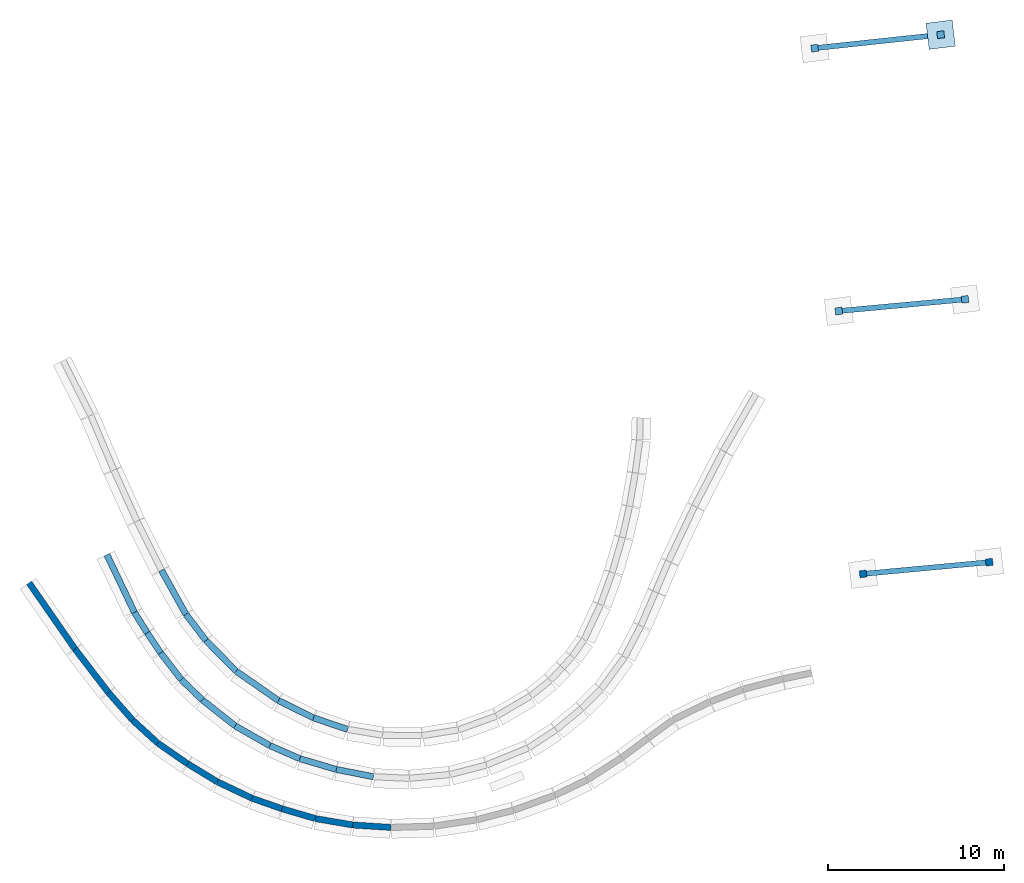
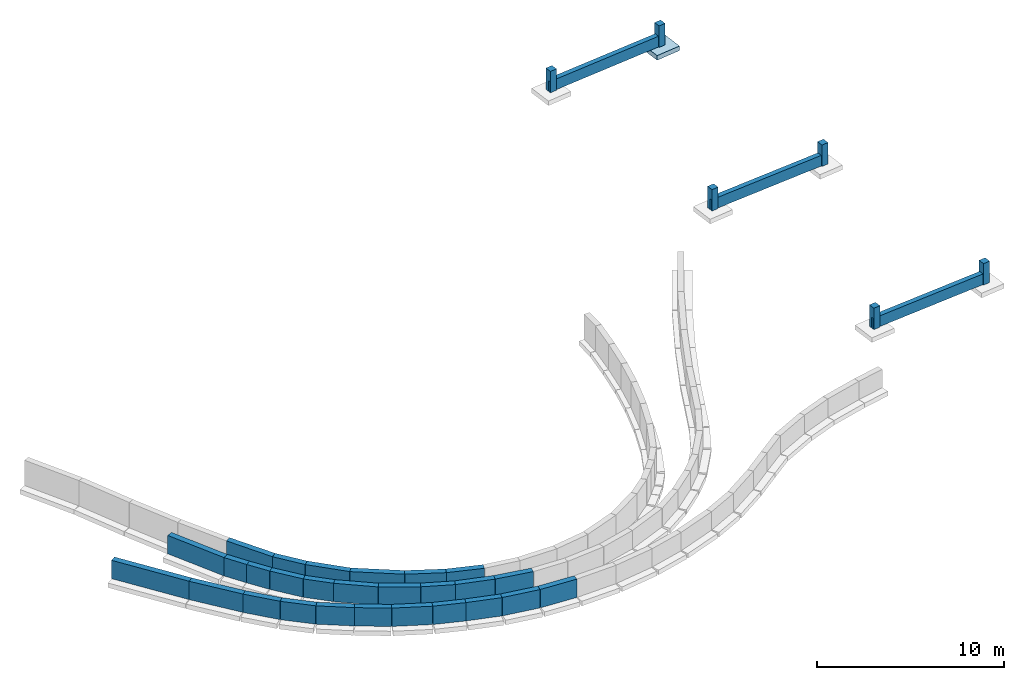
# One storey, part 4 of 6: 27 walls, 6 columns, 3 beams, 1 footing.
"""IFC2X3 building model written with IfcOpenShell, lengths in millimetres."""

from ifc_helpers import new_model, entity, si_unit, converted_unit, direction, frame, origin, origin_with_axes, place, context, project, spatial, faceted_brep, element, save


model = new_model("IFC2X3")

# Units and contexts
model_context = context("Model", 3, precision=1e-05, world=origin(), true_north=direction((0.0, 1.0, 0.0)))
ifc_project = project(units=[si_unit("LENGTHUNIT", "METRE", prefix="MILLI"), si_unit("AREAUNIT", "SQUARE_METRE"), si_unit("VOLUMEUNIT", "CUBIC_METRE"), converted_unit("PLANEANGLEUNIT", "DEGREE", entity("IfcPlaneAngleMeasure", 0.01745), si_unit("PLANEANGLEUNIT", "RADIAN"), dimensions=[0, 0, 0, 0, 0, 0, 0]), si_unit("SOLIDANGLEUNIT", "STERADIAN"), si_unit("MASSUNIT", "GRAM"), si_unit("TIMEUNIT", "SECOND"), si_unit("THERMODYNAMICTEMPERATUREUNIT", "DEGREE_CELSIUS"), si_unit("LUMINOUSINTENSITYUNIT", "LUMEN")], contexts=[model_context])

# Site, building, storey
site_placement = place(None, origin_with_axes())
site = spatial("IfcSite", under=ifc_project, at=site_placement, Name="Default Site", CompositionType="ELEMENT")
building_placement = place(site_placement, origin_with_axes())
building = spatial("IfcBuilding", under=site, at=building_placement, Name="Default Building", CompositionType="ELEMENT")
storey_placement = place(building_placement, origin_with_axes())
storey = spatial("IfcBuildingStorey", under=building, at=storey_placement, Name="Fundação", CompositionType="ELEMENT", Elevation=0.0)

# Footing
footing_placement = place(storey_placement, frame((8697.059722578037, -565.5739542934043, -3398.624071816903), z_axis=(0.0, 0.0, 1.0), x_axis=(1.0, 0.0, 0.0)))
element("IfcFooting", 1, at=footing_placement, inside=storey, Name="IfcFooting - P4 (150 x 150 x 30)", context=model_context, shape_type="Brep", body=[
    faceted_brep([(25877.74226346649, 29255.32230500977, 5.960464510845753e-06), (27183.7575165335, 30926.94553499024, 5.960464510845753e-06), (25694.93827500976, 30744.14154653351, 5.960464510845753e-06), (27366.56150499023, 29438.12629346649, 5.960464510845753e-06), (25694.93827500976, 30744.14154653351, -300.0000059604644), (27366.56150499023, 29438.12629346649, -300.0000059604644), (25877.74226346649, 29255.32230500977, -300.0000059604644), (27183.7575165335, 30926.94553499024, -300.0000059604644)], [[[0, 1, 2]], [[0, 3, 1]], [[4, 5, 6]], [[4, 7, 5]], [[3, 6, 5]], [[3, 0, 6]], [[1, 5, 7]], [[1, 3, 5]], [[2, 7, 4]], [[2, 1, 7]], [[0, 4, 6]], [[0, 2, 4]]]),
])

# Columns
column_1_placement = place(storey_placement, frame((8697.059722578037, -565.5739542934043, -2555.154677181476), z_axis=(0.0, 0.0, 1.0), x_axis=(1.0, 0.0, 0.0)))
element("IfcColumn", 2, at=column_1_placement, inside=storey, Name="IfcColumn - P6 (40x40)", context=model_context, shape_type="Brep", body=[
    faceted_brep([(27743.7927716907, 14832.10322284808, 1399.9999721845), (28092.06348597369, 15277.86943340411, 1399.9999721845), (27695.04502355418, 15229.12168526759, 1399.9999721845), (28140.81123411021, 14880.8509709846, 1399.9999721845), (27695.04502355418, 15229.12168526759, -2.781549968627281e-05), (28140.81123411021, 14880.8509709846, -2.781549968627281e-05), (27743.7927716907, 14832.10322284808, -2.781549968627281e-05), (28092.06348597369, 15277.86943340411, -2.781549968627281e-05)], [[[0, 1, 2]], [[0, 3, 1]], [[4, 5, 6]], [[4, 7, 5]], [[3, 6, 5]], [[3, 0, 6]], [[1, 5, 7]], [[1, 3, 5]], [[2, 7, 4]], [[2, 1, 7]], [[0, 4, 6]], [[0, 2, 4]]]),
])
column_2_placement = place(storey_placement, frame((8697.059722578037, -565.5739542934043, -2555.154677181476), z_axis=(0.0, 0.0, 1.0), x_axis=(1.0, 0.0, 0.0)))
element("IfcColumn", 3, at=column_2_placement, inside=storey, Name="IfcColumn - P5 (40x40)", context=model_context, shape_type="Brep", body=[
    faceted_brep([(20570.14347169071, 14169.62916284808, 1399.9999721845), (20918.4141859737, 14615.39537340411, 1399.9999721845), (20521.39572355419, 14566.64762526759, 1399.9999721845), (20967.16193411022, 14218.3769109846, 1399.9999721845), (20521.39572355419, 14566.64762526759, -2.781549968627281e-05), (20967.16193411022, 14218.3769109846, -2.781549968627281e-05), (20570.14347169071, 14169.62916284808, -2.781549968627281e-05), (20918.4141859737, 14615.39537340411, -2.781549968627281e-05)], [[[0, 1, 2]], [[0, 3, 1]], [[4, 5, 6]], [[4, 7, 5]], [[3, 6, 5]], [[3, 0, 6]], [[1, 5, 7]], [[1, 3, 5]], [[2, 7, 4]], [[2, 1, 7]], [[0, 4, 6]], [[0, 2, 4]]]),
])
column_3_placement = place(storey_placement, frame((8697.059722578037, -565.5739542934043, -1732.458657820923), z_axis=(0.0, 0.0, 1.0), x_axis=(1.0, 0.0, 0.0)))
element("IfcColumn", 4, at=column_3_placement, inside=storey, Name="IfcColumn - P8 (40x40)", context=model_context, shape_type="Brep", body=[
    faceted_brep([(29119.18278169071, -102.0812554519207, 1399.9999721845), (29467.45349597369, 343.6849551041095, 1399.9999721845), (29070.43503355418, 294.9372069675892, 1399.9999721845), (29516.20124411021, -53.33350731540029, 1399.9999721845), (29070.43503355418, 294.9372069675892, -2.781549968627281e-05), (29516.20124411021, -53.33350731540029, -2.781549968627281e-05), (29119.18278169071, -102.0812554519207, -2.781549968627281e-05), (29467.45349597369, 343.6849551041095, -2.781549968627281e-05)], [[[0, 1, 2]], [[0, 3, 1]], [[4, 5, 6]], [[4, 7, 5]], [[3, 6, 5]], [[3, 0, 6]], [[1, 5, 7]], [[1, 3, 5]], [[2, 7, 4]], [[2, 1, 7]], [[0, 4, 6]], [[0, 2, 4]]]),
])
column_4_placement = place(storey_placement, frame((8697.059722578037, -565.5739542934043, -3398.624067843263), z_axis=(0.0, 0.0, 1.0), x_axis=(1.0, 0.0, 0.0)))
element("IfcColumn", 5, at=column_4_placement, inside=storey, Name="IfcColumn - P3 (40x40)", context=model_context, shape_type="Brep", body=[
    faceted_brep([(19194.11714169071, 29102.87164284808, 1399.9999721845), (19542.38785597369, 29548.63785340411, 1399.9999721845), (19145.36939355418, 29499.89010526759, 1399.9999721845), (19591.13560411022, 29151.6193909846, 1399.9999721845), (19145.36939355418, 29499.89010526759, -2.781549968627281e-05), (19591.13560411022, 29151.6193909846, -2.781549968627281e-05), (19194.11714169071, 29102.87164284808, -2.781549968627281e-05), (19542.38785597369, 29548.63785340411, -2.781549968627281e-05)], [[[0, 1, 2]], [[0, 3, 1]], [[4, 5, 6]], [[4, 7, 5]], [[3, 6, 5]], [[3, 0, 6]], [[1, 5, 7]], [[1, 3, 5]], [[2, 7, 4]], [[2, 1, 7]], [[0, 4, 6]], [[0, 2, 4]]]),
])
column_5_placement = place(storey_placement, frame((8697.059722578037, -565.5739542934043, -3398.624067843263), z_axis=(0.0, 0.0, 1.0), x_axis=(1.0, 0.0, 0.0)))
element("IfcColumn", 6, at=column_5_placement, inside=storey, Name="IfcColumn - P4 (40x40)", context=model_context, shape_type="Brep", body=[
    faceted_brep([(26356.61453169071, 29868.25081284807, 1399.9999721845), (26704.8852459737, 30314.01702340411, 1399.9999721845), (26307.86678355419, 30265.26927526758, 1399.9999721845), (26753.63299411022, 29916.99856098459, 1399.9999721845), (26307.86678355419, 30265.26927526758, -2.781549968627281e-05), (26753.63299411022, 29916.99856098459, -2.781549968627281e-05), (26356.61453169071, 29868.25081284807, -2.781549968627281e-05), (26704.8852459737, 30314.01702340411, -2.781549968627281e-05)], [[[0, 1, 2]], [[0, 3, 1]], [[4, 5, 6]], [[4, 7, 5]], [[3, 6, 5]], [[3, 0, 6]], [[1, 5, 7]], [[1, 3, 5]], [[2, 7, 4]], [[2, 1, 7]], [[0, 4, 6]], [[0, 2, 4]]]),
])
column_6_placement = place(storey_placement, frame((8697.059722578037, -565.5739542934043, -1732.458657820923), z_axis=(0.0, 0.0, 1.0), x_axis=(1.0, 0.0, 0.0)))
element("IfcColumn", 7, at=column_6_placement, inside=storey, Name="IfcColumn - P7 (40x40)", context=model_context, shape_type="Brep", body=[
    faceted_brep([(21949.8888216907, -767.9758581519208, 1399.9999721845), (22298.15953597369, -322.2096475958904, 1399.9999721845), (21901.14107355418, -370.9573957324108, 1399.9999721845), (22346.90728411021, -719.2281100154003, 1399.9999721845), (21901.14107355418, -370.9573957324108, -2.781549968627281e-05), (22346.90728411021, -719.2281100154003, -2.781549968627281e-05), (21949.8888216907, -767.9758581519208, -2.781549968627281e-05), (22298.15953597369, -322.2096475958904, -2.781549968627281e-05)], [[[0, 1, 2]], [[0, 3, 1]], [[4, 5, 6]], [[4, 7, 5]], [[3, 6, 5]], [[3, 0, 6]], [[1, 5, 7]], [[1, 3, 5]], [[2, 7, 4]], [[2, 1, 7]], [[0, 4, 6]], [[0, 2, 4]]]),
])

# Beams
beam_1_placement = place(storey_placement, frame((8697.059722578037, -565.5739542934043, -3055.154681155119), z_axis=(0.0, 0.0, 1.0), x_axis=(1.0, 0.0, 0.0)))
element("IfcBeam", 8, at=beam_1_placement, inside=storey, Name="IfcBeam - Viga 123 (30x70)", context=model_context, shape_type="Brep", body=[
    faceted_brep([(28130.96443595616, 14924.02160910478, 500.0000059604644), (28103.37726058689, 15222.75050727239, 1199.999994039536), (28130.96443595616, 14924.02160910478, 1199.999994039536), (28103.37726058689, 15222.75050727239, 500.0000059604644), (20558.82970275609, 14224.74809733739, 1199.999994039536), (20531.24252738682, 14523.476995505, 500.0000059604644), (20558.82970275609, 14224.74809733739, 500.0000059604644), (20531.24252738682, 14523.476995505, 1199.999994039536)], [[[0, 1, 2]], [[0, 3, 1]], [[4, 5, 6]], [[4, 7, 5]], [[3, 6, 5]], [[3, 0, 6]], [[1, 5, 7]], [[1, 3, 5]], [[2, 7, 4]], [[2, 1, 7]], [[0, 4, 6]], [[0, 2, 4]]]),
])
beam_2_placement = place(storey_placement, frame((8697.059722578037, -565.5739542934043, -2232.458661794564), z_axis=(0.0, 0.0, 1.0), x_axis=(1.0, 0.0, 0.0)))
element("IfcBeam", 9, at=beam_2_placement, inside=storey, Name="IfcBeam - Viga 122 (30x70)", context=model_context, shape_type="Brep", body=[
    faceted_brep([(29506.42043836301, -10.05052409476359, 500.0000059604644), (29478.67542989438, 288.6637411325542, 1199.999994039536), (29506.42043836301, -10.05052409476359, 1199.999994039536), (29478.67542989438, 288.6637411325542, 500.0000059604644), (21938.6668849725, -712.9546441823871, 1199.999994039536), (21910.92187650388, -414.2403789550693, 500.0000059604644), (21938.6668849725, -712.9546441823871, 500.0000059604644), (21910.92187650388, -414.2403789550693, 1199.999994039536)], [[[0, 1, 2]], [[0, 3, 1]], [[4, 5, 6]], [[4, 7, 5]], [[3, 6, 5]], [[3, 0, 6]], [[1, 5, 7]], [[1, 3, 5]], [[2, 7, 4]], [[2, 1, 7]], [[0, 4, 6]], [[0, 2, 4]]]),
])
beam_3_placement = place(storey_placement, frame((8697.059722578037, -565.5739542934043, -3898.624071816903), z_axis=(0.0, 0.0, 1.0), x_axis=(1.0, 0.0, 0.0)))
element("IfcBeam", 10, at=beam_3_placement, inside=storey, Name="IfcBeam - Viga 124 (30x70)", context=model_context, shape_type="Brep", body=[
    faceted_brep([(26745.58034793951, 29963.2365464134, 500.0000059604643), (26713.70402233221, 30261.53824319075, 1199.999994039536), (26745.58034793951, 29963.2365464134, 1199.999994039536), (26713.70402233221, 30261.53824319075, 500.0000059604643), (19185.29835598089, 29155.35042275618, 1199.999994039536), (19153.42203037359, 29453.65211953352, 500.0000059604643), (19185.29835598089, 29155.35042275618, 500.0000059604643), (19153.42203037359, 29453.65211953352, 1199.999994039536)], [[[0, 1, 2]], [[0, 3, 1]], [[4, 5, 6]], [[4, 7, 5]], [[3, 6, 5]], [[3, 0, 6]], [[1, 5, 7]], [[1, 3, 5]], [[2, 7, 4]], [[2, 1, 7]], [[0, 4, 6]], [[0, 2, 4]]]),
])

# Walls
wall_1_placement = place(storey_placement, origin_with_axes())
element("IfcWallStandardCase", 11, at=wall_1_placement, inside=storey, Name="IfcWallStandardCase - IfcWallStandardCase - C63 (35)", context=model_context, shape_type="Brep", body=[
    faceted_brep([(-1141.207416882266, -11437.78922599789, -900.0000119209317), (937.792579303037, -12052.78922063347, -900.0000119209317), (937.792579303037, -12052.78922063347, -2100.000059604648), (-1141.207416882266, -11437.78922599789, -2100.000059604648), (838.5100761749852, -12388.41249984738, -900.0000119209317), (838.5100761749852, -12388.41249984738, -2100.000059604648), (-1240.489920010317, -11773.4125052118, -900.0000119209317), (-1240.489920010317, -11773.4125052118, -2100.000059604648)], [[[0, 1, 2]], [[0, 2, 3]], [[1, 4, 5]], [[1, 5, 2]], [[4, 6, 7]], [[4, 7, 5]], [[6, 0, 3]], [[6, 3, 7]], [[2, 5, 7]], [[2, 7, 3]], [[0, 6, 4]], [[0, 4, 1]]]),
])
wall_2_placement = place(storey_placement, origin_with_axes())
element("IfcWallStandardCase", 12, at=wall_2_placement, inside=storey, Name="IfcWallStandardCase - IfcWallStandardCase - C71 (35)", context=model_context, shape_type="Brep", body=[
    faceted_brep([(-11988.48188348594, 60.65112785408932, -900.0000119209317), (-10416.48185678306, -3229.348833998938, -900.0000119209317), (-10416.48185678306, -3229.348833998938, -2100.000059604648), (-11988.48188348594, 60.65112785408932, -2100.000059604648), (-10732.28407331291, -3380.242760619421, -900.0000119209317), (-10732.28407331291, -3380.242760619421, -2100.000059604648), (-12304.28410001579, -90.24279876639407, -900.0000119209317), (-12304.28410001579, -90.24279876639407, -2100.000059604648)], [[[0, 1, 2]], [[0, 2, 3]], [[1, 4, 5]], [[1, 5, 2]], [[4, 6, 7]], [[4, 7, 5]], [[6, 0, 3]], [[6, 3, 7]], [[2, 5, 7]], [[2, 7, 3]], [[0, 6, 4]], [[0, 4, 1]]]),
])
wall_3_placement = place(storey_placement, origin_with_axes())
element("IfcWallStandardCase", 13, at=wall_3_placement, inside=storey, Name="IfcWallStandardCase - IfcWallStandardCase - C69 (35)", context=model_context, shape_type="Brep", body=[
    faceted_brep([(-9707.507744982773, -4360.667657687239, -900.0000119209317), (-8948.507726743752, -5499.667626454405, -900.0000119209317), (-8948.507726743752, -5499.667626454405, -2100.000059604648), (-9707.507744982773, -4360.667657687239, -2100.000059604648), (-9239.764676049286, -5693.753671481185, -900.0000119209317), (-9239.764676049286, -5693.753671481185, -2100.000059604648), (-9998.764694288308, -4554.753702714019, -900.0000119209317), (-9998.764694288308, -4554.753702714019, -2100.000059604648)], [[[0, 1, 2]], [[0, 2, 3]], [[1, 4, 5]], [[1, 5, 2]], [[4, 6, 7]], [[4, 7, 5]], [[6, 0, 3]], [[6, 3, 7]], [[2, 5, 7]], [[2, 7, 3]], [[0, 6, 4]], [[0, 4, 1]]]),
])
wall_4_placement = place(storey_placement, origin_with_axes())
element("IfcWallStandardCase", 14, at=wall_4_placement, inside=storey, Name="IfcWallStandardCase - IfcWallStandardCase - C62 (35)", context=model_context, shape_type="Brep", body=[
    faceted_brep([(919.5864775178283, -12048.31979225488, -900.0000119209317), (3033.58644032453, -12463.31980253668, -900.0000119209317), (3033.58644032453, -12463.31980253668, -2100.000059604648), (919.5864775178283, -12048.31979225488, -2100.000059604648), (2966.164646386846, -12806.76457832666, -900.0000119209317), (2966.164646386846, -12806.76457832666, -2100.000059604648), (852.1646835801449, -12391.76456804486, -900.0000119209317), (852.1646835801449, -12391.76456804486, -2100.000059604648)], [[[0, 1, 2]], [[0, 2, 3]], [[1, 4, 5]], [[1, 5, 2]], [[4, 6, 7]], [[4, 7, 5]], [[6, 0, 3]], [[6, 3, 7]], [[2, 5, 7]], [[2, 7, 3]], [[0, 6, 4]], [[0, 4, 1]]]),
])
wall_5_placement = place(storey_placement, origin_with_axes())
element("IfcWallStandardCase", 15, at=wall_5_placement, inside=storey, Name="IfcWallStandardCase - IfcWallStandardCase - C70 (35)", context=model_context, shape_type="Brep", body=[
    faceted_brep([(-10427.37358906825, -3209.521411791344, -900.0000119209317), (-9704.373613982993, -4365.521429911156, -900.0000119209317), (-9704.373613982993, -4365.521429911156, -2100.000059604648), (-10427.37358906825, -3209.521411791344, -2100.000059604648), (-10001.11529329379, -4551.113366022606, -900.0000119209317), (-10001.11529329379, -4551.113366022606, -2100.000059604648), (-10724.11526837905, -3395.113347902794, -900.0000119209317), (-10724.11526837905, -3395.113347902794, -2100.000059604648)], [[[0, 1, 2]], [[0, 2, 3]], [[1, 4, 5]], [[1, 5, 2]], [[4, 6, 7]], [[4, 7, 5]], [[6, 0, 3]], [[6, 3, 7]], [[2, 5, 7]], [[2, 7, 3]], [[0, 6, 4]], [[0, 4, 1]]]),
])
wall_6_placement = place(storey_placement, origin_with_axes())
element("IfcWallStandardCase", 16, at=wall_6_placement, inside=storey, Name="IfcWallStandardCase - IfcWallStandardCase - C64 (35)", context=model_context, shape_type="Brep", body=[
    faceted_brep([(-2816.98599449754, -10705.25095159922, -900.0000119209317), (-1117.985993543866, -11446.25097806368, -900.0000119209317), (-1117.985993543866, -11446.25097806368, -2100.000059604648), (-2816.98599449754, -10705.25095159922, -2100.000059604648), (-1257.905989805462, -11767.06621344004, -900.0000119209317), (-1257.905989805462, -11767.06621344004, -2100.000059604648), (-2956.905990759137, -11026.06618697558, -900.0000119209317), (-2956.905990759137, -11026.06618697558, -2100.000059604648)], [[[0, 1, 2]], [[0, 2, 3]], [[1, 4, 5]], [[1, 5, 2]], [[4, 6, 7]], [[4, 7, 5]], [[6, 0, 3]], [[6, 3, 7]], [[2, 5, 7]], [[2, 7, 3]], [[0, 6, 4]], [[0, 4, 1]]]),
])
wall_7_placement = place(storey_placement, origin_with_axes())
element("IfcWallStandardCase", 17, at=wall_7_placement, inside=storey, Name="IfcWallStandardCase - IfcWallStandardCase - C65 (35)", context=model_context, shape_type="Brep", body=[
    faceted_brep([(-4768.026217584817, -9593.746413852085, -900.0000119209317), (-2798.026248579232, -10714.74640574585, -900.0000119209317), (-2798.026248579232, -10714.74640574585, -2100.000059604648), (-4768.026217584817, -9593.746413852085, -2100.000059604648), (-2971.125826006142, -11018.94461121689, -900.0000119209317), (-2971.125826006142, -11018.94461121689, -2100.000059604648), (-4941.125795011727, -9897.944619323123, -900.0000119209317), (-4941.125795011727, -9897.944619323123, -2100.000059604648)], [[[0, 1, 2]], [[0, 2, 3]], [[1, 4, 5]], [[1, 5, 2]], [[4, 6, 7]], [[4, 7, 5]], [[6, 0, 3]], [[6, 3, 7]], [[2, 5, 7]], [[2, 7, 3]], [[0, 6, 4]], [[0, 4, 1]]]),
])
wall_8_placement = place(storey_placement, origin_with_axes())
element("IfcWallStandardCase", 18, at=wall_8_placement, inside=storey, Name="IfcWallStandardCase - IfcWallStandardCase - C68 (35)", context=model_context, shape_type="Brep", body=[
    faceted_brep([(-8956.784160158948, -5488.154045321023, -900.0000119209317), (-7781.784178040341, -7006.154051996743, -900.0000119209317), (-7781.784178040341, -7006.154051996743, -2100.000059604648), (-8956.784160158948, -5488.154045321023, -2100.000059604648), (-8058.557362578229, -7220.388880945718, -900.0000119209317), (-8058.557362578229, -7220.388880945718, -2100.000059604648), (-9233.557344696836, -5702.388874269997, -900.0000119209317), (-9233.557344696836, -5702.388874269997, -2100.000059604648)], [[[0, 1, 2]], [[0, 2, 3]], [[1, 4, 5]], [[1, 5, 2]], [[4, 6, 7]], [[4, 7, 5]], [[6, 0, 3]], [[6, 3, 7]], [[2, 5, 7]], [[2, 7, 3]], [[0, 6, 4]], [[0, 4, 1]]]),
])
wall_9_placement = place(storey_placement, origin_with_axes())
element("IfcWallStandardCase", 19, at=wall_9_placement, inside=storey, Name="IfcWallStandardCase - IfcWallStandardCase - C67 (35)", context=model_context, shape_type="Brep", body=[
    faceted_brep([(-7800.701724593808, -6985.003013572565, -900.0000119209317), (-6607.70173579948, -8142.002989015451, -900.0000119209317), (-6607.70173579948, -8142.002989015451, -2100.000059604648), (-7800.701724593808, -6985.003013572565, -2100.000059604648), (-6851.369189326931, -8393.25215335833, -900.0000119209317), (-6851.369189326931, -8393.25215335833, -2100.000059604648), (-8044.369178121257, -7236.252177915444, -900.0000119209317), (-8044.369178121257, -7236.252177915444, -2100.000059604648)], [[[0, 1, 2]], [[0, 2, 3]], [[1, 4, 5]], [[1, 5, 2]], [[4, 6, 7]], [[4, 7, 5]], [[6, 0, 3]], [[6, 3, 7]], [[2, 5, 7]], [[2, 7, 3]], [[0, 6, 4]], [[0, 4, 1]]]),
])
wall_10_placement = place(storey_placement, origin_with_axes())
element("IfcWallStandardCase", 20, at=wall_10_placement, inside=storey, Name="IfcWallStandardCase - IfcWallStandardCase - C66 (35)", context=model_context, shape_type="Brep", body=[
    faceted_brep([(-6623.125215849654, -8128.507614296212, -900.0000119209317), (-4743.125220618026, -9610.507607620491, -900.0000119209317), (-4743.125220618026, -9610.507607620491, -2100.000059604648), (-6623.125215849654, -8128.507614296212, -2100.000059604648), (-4959.80157502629, -9885.373711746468, -900.0000119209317), (-4959.80157502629, -9885.373711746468, -2100.000059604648), (-6839.801570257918, -8403.373718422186, -900.0000119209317), (-6839.801570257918, -8403.373718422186, -2100.000059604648)], [[[0, 1, 2]], [[0, 2, 3]], [[1, 4, 5]], [[1, 5, 2]], [[4, 6, 7]], [[4, 7, 5]], [[6, 0, 3]], [[6, 3, 7]], [[2, 5, 7]], [[2, 7, 3]], [[0, 6, 4]], [[0, 4, 1]]]),
])
wall_11_placement = place(storey_placement, origin_with_axes())
element("IfcWallStandardCase", 21, at=wall_11_placement, inside=storey, Name="IfcWallStandardCase - IfcWallStandardCase - C10 (35)", context=model_context, shape_type="Brep", body=[
    faceted_brep([(-348.9943853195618, -9124.07218793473, -1800.000032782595), (1598.005641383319, -9781.072178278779, -1800.000032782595), (1598.005641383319, -9781.072178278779, -3450.000008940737), (-348.9943853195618, -9124.07218793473, -3450.000008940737), (1486.100305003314, -10112.70027736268, -1800.000032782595), (1486.100305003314, -10112.70027736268, -3450.000008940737), (-460.8997216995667, -9455.700287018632, -1800.000032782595), (-460.8997216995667, -9455.700287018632, -3450.000008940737)], [[[0, 1, 2]], [[0, 2, 3]], [[1, 4, 5]], [[1, 5, 2]], [[4, 6, 7]], [[4, 7, 5]], [[6, 0, 3]], [[6, 3, 7]], [[2, 5, 7]], [[2, 7, 3]], [[0, 6, 4]], [[0, 4, 1]]]),
])
wall_12_placement = place(storey_placement, origin_with_axes())
element("IfcWallStandardCase", 22, at=wall_12_placement, inside=storey, Name="IfcWallStandardCase - IfcWallStandardCase - C5 (35)", context=model_context, shape_type="Brep", body=[
    faceted_brep([(-8890.08908138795, -817.4809805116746, -1800.000032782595), (-7499.089048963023, -3322.480975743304, -1800.000032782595), (-7499.089048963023, -3322.480975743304, -3450.000008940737), (-8890.08908138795, -817.4809805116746, -3450.000008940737), (-7805.078672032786, -3492.393671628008, -1800.000032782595), (-7805.078672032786, -3492.393671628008, -3450.000008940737), (-9196.078704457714, -987.3936763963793, -1800.000032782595), (-9196.078704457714, -987.3936763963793, -3450.000008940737)], [[[0, 1, 2]], [[0, 2, 3]], [[1, 4, 5]], [[1, 5, 2]], [[4, 6, 7]], [[4, 7, 5]], [[6, 0, 3]], [[6, 3, 7]], [[2, 5, 7]], [[2, 7, 3]], [[0, 6, 4]], [[0, 4, 1]]]),
])
wall_13_placement = place(storey_placement, origin_with_axes())
element("IfcWallStandardCase", 23, at=wall_13_placement, inside=storey, Name="IfcWallStandardCase - IfcWallStandardCase - C6 (35)", context=model_context, shape_type="Brep", body=[
    faceted_brep([(-7514.968966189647, -3298.214479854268, -1800.000032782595), (-6375.968937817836, -4790.214463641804, -1800.000032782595), (-6375.968937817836, -4790.214463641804, -3450.000008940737), (-7514.968966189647, -3298.214479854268, -3450.000008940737), (-6654.168759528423, -5002.593561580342, -1800.000032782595), (-6654.168759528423, -5002.593561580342, -3450.000008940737), (-7793.168787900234, -3510.593577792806, -1800.000032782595), (-7793.168787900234, -3510.593577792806, -3450.000008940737)], [[[0, 1, 2]], [[0, 2, 3]], [[1, 4, 5]], [[1, 5, 2]], [[4, 6, 7]], [[4, 7, 5]], [[6, 0, 3]], [[6, 3, 7]], [[2, 5, 7]], [[2, 7, 3]], [[0, 6, 4]], [[0, 4, 1]]]),
])
wall_14_placement = place(storey_placement, origin_with_axes())
element("IfcWallStandardCase", 24, at=wall_14_placement, inside=storey, Name="IfcWallStandardCase - IfcWallStandardCase - C7 (35)", context=model_context, shape_type="Brep", body=[
    faceted_brep([(-6392.462036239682, -4771.217387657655, -1800.000032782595), (-4672.462067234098, -6517.217439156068, -1800.000032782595), (-4672.462067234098, -6517.217439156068, -3450.000008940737), (-6392.462036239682, -4771.217387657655, -3450.000008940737), (-4921.798965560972, -6762.841385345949, -1800.000032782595), (-4921.798965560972, -6762.841385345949, -3450.000008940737), (-6641.798934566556, -5016.841333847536, -1800.000032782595), (-6641.798934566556, -5016.841333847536, -3450.000008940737)], [[[0, 1, 2]], [[0, 2, 3]], [[1, 4, 5]], [[1, 5, 2]], [[4, 6, 7]], [[4, 7, 5]], [[6, 0, 3]], [[6, 3, 7]], [[2, 5, 7]], [[2, 7, 3]], [[0, 6, 4]], [[0, 4, 1]]]),
])
wall_15_placement = place(storey_placement, origin_with_axes())
element("IfcWallStandardCase", 25, at=wall_15_placement, inside=storey, Name="IfcWallStandardCase - IfcWallStandardCase - C8 (35)", context=model_context, shape_type="Brep", body=[
    faceted_brep([(-4700.849563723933, -6493.307964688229, -1800.000032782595), (-2297.849566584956, -8162.307994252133, -1800.000032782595), (-2297.849566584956, -8162.307994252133, -3450.000008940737), (-4700.849563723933, -6493.307964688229, -3450.000008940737), (-2497.508318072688, -8449.77344740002, -1800.000032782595), (-2497.508318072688, -8449.77344740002, -3450.000008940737), (-4900.508315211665, -6780.773417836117, -1800.000032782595), (-4900.508315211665, -6780.773417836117, -3450.000008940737)], [[[0, 1, 2]], [[0, 2, 3]], [[1, 4, 5]], [[1, 5, 2]], [[4, 6, 7]], [[4, 7, 5]], [[6, 0, 3]], [[6, 3, 7]], [[2, 5, 7]], [[2, 7, 3]], [[0, 6, 4]], [[0, 4, 1]]]),
])
wall_16_placement = place(storey_placement, origin_with_axes())
element("IfcWallStandardCase", 26, at=wall_16_placement, inside=storey, Name="IfcWallStandardCase - IfcWallStandardCase - C9 (35)", context=model_context, shape_type="Brep", body=[
    faceted_brep([(-2323.395811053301, -8147.242185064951, -1800.000032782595), (-324.3957981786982, -9134.24220342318, -1800.000032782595), (-324.3957981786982, -9134.24220342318, -3450.000008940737), (-2323.395811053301, -8147.242185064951, -3450.000008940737), (-479.3486222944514, -9448.072787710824, -1800.000032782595), (-479.3486222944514, -9448.072787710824, -3450.000008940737), (-2478.348635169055, -8461.072769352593, -1800.000032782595), (-2478.348635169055, -8461.072769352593, -3450.000008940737)], [[[0, 1, 2]], [[0, 2, 3]], [[1, 4, 5]], [[1, 5, 2]], [[4, 6, 7]], [[4, 7, 5]], [[6, 0, 3]], [[6, 3, 7]], [[2, 5, 7]], [[2, 7, 3]], [[0, 6, 4]], [[0, 4, 1]]]),
])
wall_17_placement = place(storey_placement, origin_with_axes())
element("IfcWallStandardCase", 27, at=wall_17_placement, inside=storey, Name="IfcWallStandardCase - IfcWallStandardCase - C109 (35)", context=model_context, shape_type="Brep", body=[
    faceted_brep([(1833.791989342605, -15201.97967264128, -1.192093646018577e-05), (4012.792009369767, -15340.97967121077, -1.192093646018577e-05), (4012.792009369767, -15340.97967121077, -1200.000059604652), (1833.791989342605, -15201.97967264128, -1200.000059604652), (3990.51048185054, -15690.26971432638, -1.192093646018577e-05), (3990.51048185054, -15690.26971432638, -1200.000059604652), (1811.510461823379, -15551.2697157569, -1.192093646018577e-05), (1811.510461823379, -15551.2697157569, -1200.000059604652)], [[[0, 1, 2]], [[0, 2, 3]], [[1, 4, 5]], [[1, 5, 2]], [[4, 6, 7]], [[4, 7, 5]], [[6, 0, 3]], [[6, 3, 7]], [[2, 5, 7]], [[2, 7, 3]], [[0, 6, 4]], [[0, 4, 1]]]),
])
wall_18_placement = place(storey_placement, origin_with_axes())
element("IfcWallStandardCase", 28, at=wall_18_placement, inside=storey, Name="IfcWallStandardCase - IfcWallStandardCase - C110 (35)", context=model_context, shape_type="Brep", body=[
    faceted_brep([(-272.0241418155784, -14838.47072391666, -1.192093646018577e-05), (1854.975951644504, -15204.47073454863, -1.192093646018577e-05), (1854.975951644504, -15204.47073454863, -1200.000059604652), (-272.0241418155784, -14838.47072391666, -1200.000059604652), (1795.622600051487, -15549.40142898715, -1.192093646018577e-05), (1795.622600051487, -15549.40142898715, -1200.000059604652), (-331.377493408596, -15183.40141835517, -1.192093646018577e-05), (-331.377493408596, -15183.40141835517, -1200.000059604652)], [[[0, 1, 2]], [[0, 2, 3]], [[1, 4, 5]], [[1, 5, 2]], [[4, 6, 7]], [[4, 7, 5]], [[6, 0, 3]], [[6, 3, 7]], [[2, 5, 7]], [[2, 7, 3]], [[0, 6, 4]], [[0, 4, 1]]]),
])
wall_19_placement = place(storey_placement, origin_with_axes())
element("IfcWallStandardCase", 29, at=wall_19_placement, inside=storey, Name="IfcWallStandardCase - IfcWallStandardCase - C111 (35)", context=model_context, shape_type="Brep", body=[
    faceted_brep([(-2149.583582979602, -14285.6783795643, -1.192093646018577e-05), (-249.5836068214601, -14843.67838534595, -1.192093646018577e-05), (-249.5836068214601, -14843.67838534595, -1200.000059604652), (-2149.583582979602, -14285.6783795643, -1200.000059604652), (-348.2078362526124, -15179.49568512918, -1.192093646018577e-05), (-348.2078362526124, -15179.49568512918, -1200.000059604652), (-2248.207812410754, -14621.49567934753, -1.192093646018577e-05), (-2248.207812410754, -14621.49567934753, -1200.000059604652)], [[[0, 1, 2]], [[0, 2, 3]], [[1, 4, 5]], [[1, 5, 2]], [[4, 6, 7]], [[4, 7, 5]], [[6, 0, 3]], [[6, 3, 7]], [[2, 5, 7]], [[2, 7, 3]], [[0, 6, 4]], [[0, 4, 1]]]),
])
wall_20_placement = place(storey_placement, origin_with_axes())
element("IfcWallStandardCase", 30, at=wall_20_placement, inside=storey, Name="IfcWallStandardCase - IfcWallStandardCase - C112 (35)", context=model_context, shape_type="Brep", body=[
    faceted_brep([(-3830.755901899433, -13695.84238102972, -1.192093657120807e-05), (-2139.755857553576, -14288.84236088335, -1.192093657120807e-05), (-2139.755857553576, -14288.84236088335, -1200.000059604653), (-3830.755901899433, -13695.84238102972, -1200.000059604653), (-2255.578590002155, -14619.1226797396, -1.192093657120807e-05), (-2255.578590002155, -14619.1226797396, -1200.000059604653), (-3946.57863434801, -14026.12269988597, -1.192093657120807e-05), (-3946.57863434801, -14026.12269988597, -1200.000059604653)], [[[0, 1, 2]], [[0, 2, 3]], [[1, 4, 5]], [[1, 5, 2]], [[4, 6, 7]], [[4, 7, 5]], [[6, 0, 3]], [[6, 3, 7]], [[2, 5, 7]], [[2, 7, 3]], [[0, 6, 4]], [[0, 4, 1]]]),
])
wall_21_placement = place(storey_placement, origin_with_axes())
element("IfcWallStandardCase", 31, at=wall_21_placement, inside=storey, Name="IfcWallStandardCase - IfcWallStandardCase - C113 (35)", context=model_context, shape_type="Brep", body=[
    faceted_brep([(-5799.373863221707, -12762.80236584, -1.192093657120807e-05), (-3811.373827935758, -13703.80235058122, -1.192093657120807e-05), (-3811.373827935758, -13703.80235058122, -1200.000059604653), (-5799.373863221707, -12762.80236584, -1200.000059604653), (-3961.115119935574, -14020.15269142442, -1.192093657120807e-05), (-3961.115119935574, -14020.15269142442, -1200.000059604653), (-5949.115155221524, -13079.15270668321, -1.192093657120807e-05), (-5949.115155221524, -13079.15270668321, -1200.000059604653)], [[[0, 1, 2]], [[0, 2, 3]], [[1, 4, 5]], [[1, 5, 2]], [[4, 6, 7]], [[4, 7, 5]], [[6, 0, 3]], [[6, 3, 7]], [[2, 5, 7]], [[2, 7, 3]], [[0, 6, 4]], [[0, 4, 1]]]),
])
wall_22_placement = place(storey_placement, origin_with_axes())
element("IfcWallStandardCase", 32, at=wall_22_placement, inside=storey, Name="IfcWallStandardCase - IfcWallStandardCase - C114 (35)", context=model_context, shape_type="Brep", body=[
    faceted_brep([(-7471.973368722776, -11743.72061512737, -1.192093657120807e-05), (-5780.973324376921, -12772.72062919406, -1.192093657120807e-05), (-5780.973324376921, -12772.72062919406, -1200.000059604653), (-7471.973368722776, -11743.72061512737, -1200.000059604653), (-5962.915489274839, -13071.7140080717, -1.192093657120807e-05), (-5962.915489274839, -13071.7140080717, -1200.000059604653), (-7653.915533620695, -12042.71399400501, -1.192093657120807e-05), (-7653.915533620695, -12042.71399400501, -1200.000059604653)], [[[0, 1, 2]], [[0, 2, 3]], [[1, 4, 5]], [[1, 5, 2]], [[4, 6, 7]], [[4, 7, 5]], [[6, 0, 3]], [[6, 3, 7]], [[2, 5, 7]], [[2, 7, 3]], [[0, 6, 4]], [[0, 4, 1]]]),
])
wall_23_placement = place(storey_placement, origin_with_axes())
element("IfcWallStandardCase", 33, at=wall_23_placement, inside=storey, Name="IfcWallStandardCase - IfcWallStandardCase - C115 (35)", context=model_context, shape_type="Brep", body=[
    faceted_brep([(-9153.2754610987, -10582.01299652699, -1.192093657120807e-05), (-7462.275476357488, -11750.01300916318, -1.192093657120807e-05), (-7462.275476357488, -11750.01300916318, -1200.000059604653), (-9153.2754610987, -10582.01299652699, -1200.000059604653), (-7661.188931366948, -12037.99472794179, -1.192093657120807e-05), (-7661.188931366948, -12037.99472794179, -1200.000059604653), (-9352.18891610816, -10869.9947153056, -1.192093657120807e-05), (-9352.18891610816, -10869.9947153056, -1200.000059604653)], [[[0, 1, 2]], [[0, 2, 3]], [[1, 4, 5]], [[1, 5, 2]], [[4, 6, 7]], [[4, 7, 5]], [[6, 0, 3]], [[6, 3, 7]], [[2, 5, 7]], [[2, 7, 3]], [[0, 6, 4]], [[0, 4, 1]]]),
])
wall_24_placement = place(storey_placement, origin_with_axes())
element("IfcWallStandardCase", 34, at=wall_24_placement, inside=storey, Name="IfcWallStandardCase - IfcWallStandardCase - C116 (35)", context=model_context, shape_type="Brep", body=[
    faceted_brep([(-10561.95434372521, -9290.997599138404, -1.192093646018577e-05), (-9131.954336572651, -10598.99756766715, -1.192093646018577e-05), (-9131.954336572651, -10598.99756766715, -1200.000059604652), (-10561.95434372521, -9290.997599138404, -1200.000059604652), (-9368.179762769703, -10857.25626803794, -1.192093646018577e-05), (-9368.179762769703, -10857.25626803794, -1200.000059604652), (-10798.17976992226, -9549.256299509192, -1.192093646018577e-05), (-10798.17976992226, -9549.256299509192, -1200.000059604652)], [[[0, 1, 2]], [[0, 2, 3]], [[1, 4, 5]], [[1, 5, 2]], [[4, 6, 7]], [[4, 7, 5]], [[6, 0, 3]], [[6, 3, 7]], [[2, 5, 7]], [[2, 7, 3]], [[0, 6, 4]], [[0, 4, 1]]]),
])
wall_25_placement = place(storey_placement, origin_with_axes())
element("IfcWallStandardCase", 35, at=wall_25_placement, inside=storey, Name="IfcWallStandardCase - IfcWallStandardCase - C117 (35)", context=model_context, shape_type="Brep", body=[
    faceted_brep([(-11923.62097914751, -7737.649353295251, -1.192093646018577e-05), (-10546.62100489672, -9306.649359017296, -1.192093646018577e-05), (-10546.62100489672, -9306.649359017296, -1200.000059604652), (-11923.62097914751, -7737.649353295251, -1200.000059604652), (-10809.67978652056, -9537.517460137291, -1.192093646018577e-05), (-10809.67978652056, -9537.517460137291, -1200.000059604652), (-12186.67976077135, -7968.517454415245, -1.192093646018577e-05), (-12186.67976077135, -7968.517454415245, -1200.000059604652)], [[[0, 1, 2]], [[0, 2, 3]], [[1, 4, 5]], [[1, 5, 2]], [[4, 6, 7]], [[4, 7, 5]], [[6, 0, 3]], [[6, 3, 7]], [[2, 5, 7]], [[2, 7, 3]], [[0, 6, 4]], [[0, 4, 1]]]),
])
wall_26_placement = place(storey_placement, origin_with_axes())
element("IfcWallStandardCase", 36, at=wall_26_placement, inside=storey, Name="IfcWallStandardCase - IfcWallStandardCase - C118 (35)", context=model_context, shape_type="Brep", body=[
    faceted_brep([(-13815.29642648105, -5272.786822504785, -1.192093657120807e-05), (-11915.29639071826, -7747.786727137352, -1.192093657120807e-05), (-11915.29639071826, -7747.786727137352, -1200.000059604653), (-13815.29642648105, -5272.786822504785, -1200.000059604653), (-12192.9232031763, -7960.914340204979, -1.192093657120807e-05), (-12192.9232031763, -7960.914340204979, -1200.000059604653), (-14092.92323893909, -5485.914435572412, -1.192093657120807e-05), (-14092.92323893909, -5485.914435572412, -1200.000059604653)], [[[0, 1, 2]], [[0, 2, 3]], [[1, 4, 5]], [[1, 5, 2]], [[4, 6, 7]], [[4, 7, 5]], [[6, 0, 3]], [[6, 3, 7]], [[2, 5, 7]], [[2, 7, 3]], [[0, 6, 4]], [[0, 4, 1]]]),
])
wall_27_placement = place(storey_placement, origin_with_axes())
element("IfcWallStandardCase", 37, at=wall_27_placement, inside=storey, Name="IfcWallStandardCase - IfcWallStandardCase - C119 (35)", context=model_context, shape_type="Brep", body=[
    faceted_brep([(-16424.66063701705, -1514.502942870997, -1.192093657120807e-05), (-13809.66062748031, -5280.502975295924, -1.192093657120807e-05), (-13809.66062748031, -5280.502975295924, -1200.000059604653), (-16424.66063701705, -1514.502942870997, -1200.000059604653), (-14097.15004169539, -5480.127275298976, -1.192093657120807e-05), (-14097.15004169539, -5480.127275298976, -1200.000059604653), (-16712.15005123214, -1714.127242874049, -1.192093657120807e-05), (-16712.15005123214, -1714.127242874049, -1200.000059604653)], [[[0, 1, 2]], [[0, 2, 3]], [[1, 4, 5]], [[1, 5, 2]], [[4, 6, 7]], [[4, 7, 5]], [[6, 0, 3]], [[6, 3, 7]], [[2, 5, 7]], [[2, 7, 3]], [[0, 6, 4]], [[0, 4, 1]]]),
])

save(model, "model.ifc")
